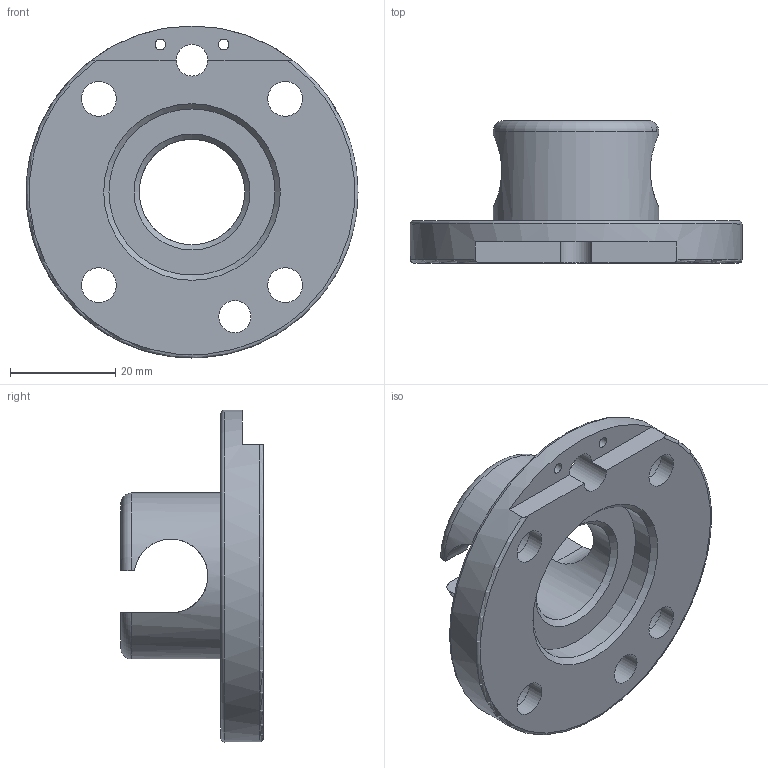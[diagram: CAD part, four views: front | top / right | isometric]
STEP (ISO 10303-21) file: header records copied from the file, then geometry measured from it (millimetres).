
FILE_DESCRIPTION(/* description */ (''),/* implementation_level */ '2;1');
FILE_NAME(/* name */ 'G-MGW063-2UEN.stp',/* time_stamp */ '2024-01-08T15:40:11+01:00',/* author */ ('ysplieth'),/* organization */ (''),/* preprocessor_version */ 'ST-DEVELOPER v20',/* originating_system */ 'Autodesk Inventor 2024',/* authorisation */ '');
FILE_SCHEMA (('AUTOMOTIVE_DESIGN { 1 0 10303 214 3 1 1 }'));
Length unit declared in the file: millimetre
Products named in the file (1): Bauteil54
Bounding box: 63 x 27 x 63 mm (x, y, z)
Volume: 23159.5 mm3; surface area: 11151.6 mm2
Topology: 1 solids, 1 shells, 42 faces, 105 edges, 69 vertices
Faces by surface type: cylinder 18, plane 16, torus 4, cone 4
Full cylindrical faces by diameter (mm): 2.013 x2, 6 x1, 6.1 x1, 6.6 x4, 11 x4, 20 x1, 31.5 x2, 63 x1
Entity records: 1530 total; most frequent: CARTESIAN_POINT 381, DIRECTION 222, ORIENTED_EDGE 210, EDGE_CURVE 105, AXIS2_PLACEMENT_3D 90, VERTEX_POINT 69, EDGE_LOOP 64, CIRCLE 47
